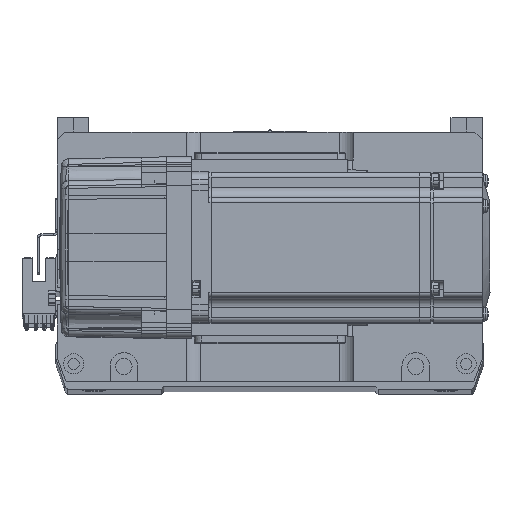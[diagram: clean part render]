
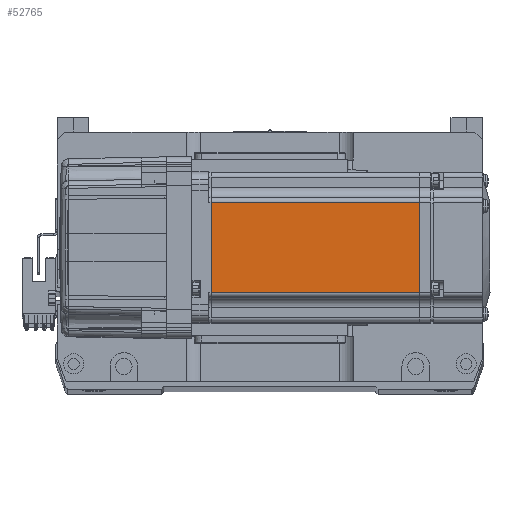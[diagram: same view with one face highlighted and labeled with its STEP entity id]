
A CAD part, top view. The second image highlights one B-rep face of the part: STEP entity #52765.
In plain terms, the highlighted planar face has unit normal (0, 0, 1) as drawn and (0, -1, 0) by its records, which use the part's own axes.
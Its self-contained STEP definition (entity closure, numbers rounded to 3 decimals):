
#1960 = ORIENTED_EDGE ( 'NONE', *, *, #47394, .T. ) ;
#2394 = DIRECTION ( 'NONE',  ( 0., 0., -1. ) ) ;
#2563 = AXIS2_PLACEMENT_3D ( 'NONE', #37516, #51750, #2394 ) ;
#4947 = CARTESIAN_POINT ( 'NONE',  ( -6.5, -30., 18. ) ) ;
#5215 = LINE ( 'NONE', #28782, #24416 ) ;
#12504 = CARTESIAN_POINT ( 'NONE',  ( -90.45, -30., -18. ) ) ;
#16741 = VECTOR ( 'NONE', #20845, 1000. ) ;
#17219 = VECTOR ( 'NONE', #50954, 1000. ) ;
#19158 = EDGE_CURVE ( 'NONE', #56980, #30076, #57258, .T. ) ;
#20845 = DIRECTION ( 'NONE',  ( 0., 0., -1. ) ) ;
#23276 = VERTEX_POINT ( 'NONE', #57638 ) ;
#24416 = VECTOR ( 'NONE', #49282, 1000. ) ;
#27786 = PLANE ( 'NONE',  #2563 ) ;
#28782 = CARTESIAN_POINT ( 'NONE',  ( -6.5, -30., -18. ) ) ;
#29498 = CARTESIAN_POINT ( 'NONE',  ( -7.75, -30., -18. ) ) ;
#30076 = VERTEX_POINT ( 'NONE', #36745 ) ;
#34929 = ORIENTED_EDGE ( 'NONE', *, *, #19158, .T. ) ;
#36745 = CARTESIAN_POINT ( 'NONE',  ( -7.75, -30., 18. ) ) ;
#37516 = CARTESIAN_POINT ( 'NONE',  ( -6.5, -30., -25. ) ) ;
#38824 = VERTEX_POINT ( 'NONE', #12504 ) ;
#44194 = LINE ( 'NONE', #4947, #52651 ) ;
#44355 = ORIENTED_EDGE ( 'NONE', *, *, #50010, .T. ) ;
#45325 = LINE ( 'NONE', #45699, #16741 ) ;
#45699 = CARTESIAN_POINT ( 'NONE',  ( -90.45, -30., -25. ) ) ;
#47394 = EDGE_CURVE ( 'NONE', #38824, #56980, #5215, .T. ) ;
#47408 = EDGE_LOOP ( 'NONE', ( #34929, #44355, #47598, #1960 ) ) ;
#47598 = ORIENTED_EDGE ( 'NONE', *, *, #53800, .T. ) ;
#49282 = DIRECTION ( 'NONE',  ( 1., 0., 0. ) ) ;
#50010 = EDGE_CURVE ( 'NONE', #30076, #23276, #44194, .T. ) ;
#50297 = CARTESIAN_POINT ( 'NONE',  ( -7.75, -30., -25. ) ) ;
#50954 = DIRECTION ( 'NONE',  ( 0., 0., 1. ) ) ;
#51750 = DIRECTION ( 'NONE',  ( 0., -1., 0. ) ) ;
#52651 = VECTOR ( 'NONE', #54520, 1000. ) ;
#52765 = ADVANCED_FACE ( 'NONE', ( #57610 ), #27786, .T. ) ;
#53800 = EDGE_CURVE ( 'NONE', #23276, #38824, #45325, .T. ) ;
#54520 = DIRECTION ( 'NONE',  ( -1., 0., 0. ) ) ;
#56980 = VERTEX_POINT ( 'NONE', #29498 ) ;
#57258 = LINE ( 'NONE', #50297, #17219 ) ;
#57610 = FACE_OUTER_BOUND ( 'NONE', #47408, .T. ) ;
#57638 = CARTESIAN_POINT ( 'NONE',  ( -90.45, -30., 18. ) ) ;
